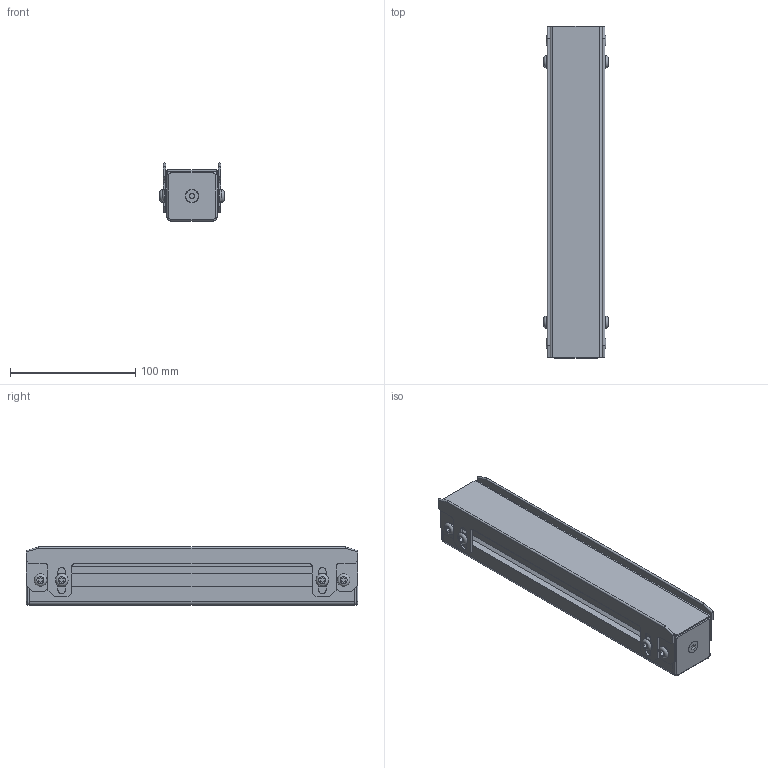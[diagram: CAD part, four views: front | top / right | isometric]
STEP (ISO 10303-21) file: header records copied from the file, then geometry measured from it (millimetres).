
FILE_DESCRIPTION(/* description */ (''),/* implementation_level */ '2;1');
FILE_NAME(/* name */ 'MGSS-FA-4040x265H.step',/* time_stamp */ '2022-12-15T12:56:39+09:00',/* author */ (''),/* organization */ (''),/* preprocessor_version */ 'ST-DEVELOPER v19.2',/* originating_system */ 'Autodesk Translation Framework v11.17.0.187',/* authorisation */ '');
FILE_SCHEMA (('AUTOMOTIVE_DESIGN { 1 0 10303 214 3 1 1 }'));
Length unit declared in the file: millimetre
Products named in the file (1): MGSS-FA-4040x265H
Bounding box: 51.6 x 265 x 46.5 mm (x, y, z)
Volume: 210991.6 mm3; surface area: 183710.4 mm2
Topology: 16 solids, 16 shells, 352 faces, 928 edges, 610 vertices
Faces by surface type: plane 236, cylinder 88, bspline 8, torus 8, sphere 8, cone 4
Full cylindrical faces by diameter (mm): 5 x2, 6 x4, 10 x8
Entity records: 10996 total; most frequent: CARTESIAN_POINT 1955, ORIENTED_EDGE 1856, DIRECTION 1844, EDGE_CURVE 928, LINE 702, VECTOR 702, VERTEX_POINT 610, AXIS2_PLACEMENT_3D 571
